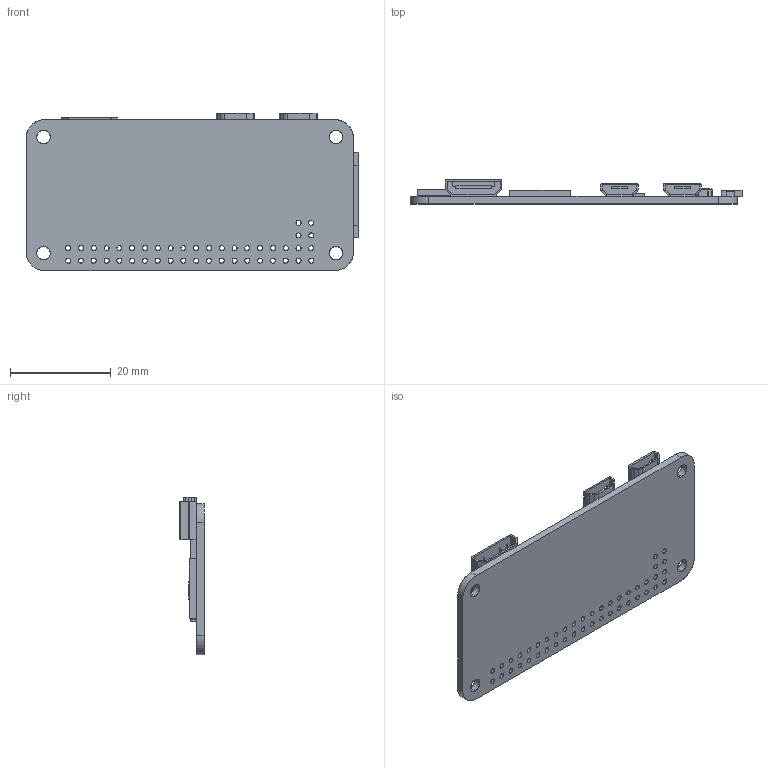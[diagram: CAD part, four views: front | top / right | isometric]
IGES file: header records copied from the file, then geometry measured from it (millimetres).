
Start section: SolidWorks IGES file using analytic representation for surfaces
Global section: file name: C:\Users\Express\Desktop\Solidworks\RaspberryPiZeroW\RaspberryPiZeroW.IGS; native system: SolidWorks 2016; preprocessor: SolidWorks 2016; author: Express; date: 170313.191315; units: millimetre
Bounding box: 65.9 x 4.8 x 31.25 mm (x, y, z)
Surface area: 5741.1 mm2 (no closed solid volume)
Topology: 0 solids, 0 shells, 368 faces, 3996 edges, 3992 vertices
Faces by surface type: bspline 200, revolution 168
